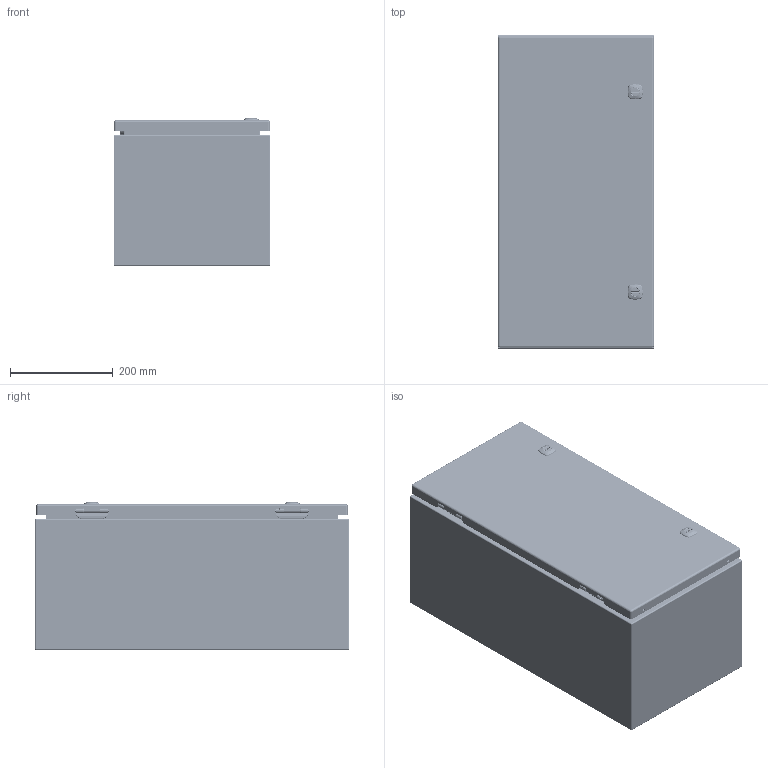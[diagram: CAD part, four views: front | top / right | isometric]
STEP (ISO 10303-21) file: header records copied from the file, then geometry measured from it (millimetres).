
FILE_DESCRIPTION(/* description */ ('5412ES 24" x 12" x 10" Assembly'),/* implementation_level */ '2;1');
FILE_NAME(/* name */ 'C:\Vault_Workspace\Inventor_Dwg\BoxCad\Result\5412ESB241210\e-mail\3D\5412ESB241210.stp',/* time_stamp */ '2022-03-14T16:39:18-04:00',/* author */ ('BoxCad'),/* organization */ (''),/* preprocessor_version */ 'ST-DEVELOPER v18.1',/* originating_system */ 'Autodesk Inventor 2020',/* authorisation */ '');
FILE_SCHEMA (('AUTOMOTIVE_DESIGN { 1 0 10303 214 3 1 1 }'));
Products named in the file (43): 5412ESB241210; 5412ESB241210B; 5412ESB241210B-P; STK-Q-16005; STUD_M6 x 16mm; STK-Q-07610; 881SP2412G; 881SP2412G-P; STK-Q-07310; 5412ESB241210C; 5412ESB241210C-P; 5412ESB241210G; STK-K-09800; STK-K-09800-2; STK-Q-33014; STK-Q-90398; STK-Q-40095; STK-Q-63410; STK-Q-16055; STK-Q-46020-24; STK-Q-07220-1; STK-Q-07220-2; STK-Q-07220-3; STK-Q-07220-4; STK-Q-07220-A; STK-Q-07220-B; STK-P-03820R; STK-S-00100; STK-A-880SCQ4-SL-1; STK-A-880SCQ4-SL-2; STK-Q-78110; STK-Q-78120; STK-Q-78145; STK-Q-03200; STK-Q-78125; STK-Q-78141; STK-Q-90390; STK-Q-78160; STK-Q-04050-07; STK-Q-04050-07-2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
Assembly tree (80 placements, depth 4):
  5412ESB241210
    5412ESB241210B
      5412ESB241210B-P
      STK-Q-16005  x4
      STK-P-03820R
      STUD_M6 x 16mm
    STK-Q-07610  x4
    881SP2412G
      881SP2412G-P
    STK-Q-07310  x4
    5412ESB241210C
      5412ESB241210C-P
      5412ESB241210G
      STK-K-09800
        STK-Q-33014
        STK-Q-90398
        STK-Q-40095  x2
        STK-Q-63410  x2
      STK-K-09800-2
        STK-Q-33014
        STK-Q-90398
        STK-Q-40095  x2
        STK-Q-63410  x2
      STK-Q-16055  x4
      STK-Q-46020-24  x2
      STK-Q-07220-1
        STK-Q-07220-A
        STK-Q-07220-B
      STK-Q-07220-2
        STK-Q-07220-A
        STK-Q-07220-B
      STK-Q-07220-3
        STK-Q-07220-A
        STK-Q-07220-B
      STK-Q-07220-4
        STK-Q-07220-A
        STK-Q-07220-B
      STK-P-03820R
      STK-S-00100
      STK-A-880SCQ4-SL-1
        STK-Q-78110
        STK-Q-78120
        STK-Q-78145
        STK-Q-03200
        STK-Q-78125
        STK-Q-78141
        STK-Q-90390
        STK-Q-78160
      STK-A-880SCQ4-SL-2
        STK-Q-78110
        STK-Q-78120
        STK-Q-78145
        STK-Q-03200
        STK-Q-78125
        STK-Q-78141
        STK-Q-90390
        STK-Q-78160
    STK-Q-04050-07
      STK-Q-04050-07-P
      STK-Q-04050-N
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Bounding box: 304.87 x 609.6 x 287.15 mm (x, y, z)
Volume: 1880485.2 mm3; surface area: 2413381.2 mm2
Topology: 64 solids, 64 shells, 9656 faces, 25916 edges, 16457 vertices
Faces by surface type: bspline 3404, plane 2761, cylinder 2500, torus 631, sphere 184, cone 176
Full cylindrical faces by diameter (mm): 0 x1, 0.75 x9, 0.762 x9, 1 x8, 1.1 x8, 3.2 x4, 4.191 x40, 4.5 x4, 4.521 x8, 4.75 x2, 4.85 x16, 4.95 x4, 5 x4, 5.1 x36, 5.156 x4, 5.6 x2, 5.9 x29, 6.015 x40, 6.65 x4, 6.8 x4, 6.85 x16, 7.3 x2, 7.366 x4, 7.9 x8, 8 x12, 8.382 x2, 9.5 x4, 9.6 x2, 9.906 x4, 10 x2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
Entity records: 154855 total; most frequent: CARTESIAN_POINT 63870, ORIENTED_EDGE 20830, DIRECTION 15137, EDGE_CURVE 10415, VERTEX_POINT 6595, AXIS2_PLACEMENT_3D 5550, EDGE_LOOP 4242, LINE 4037
